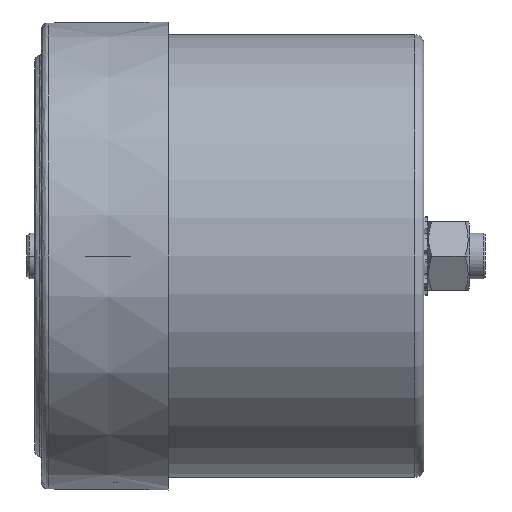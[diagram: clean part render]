
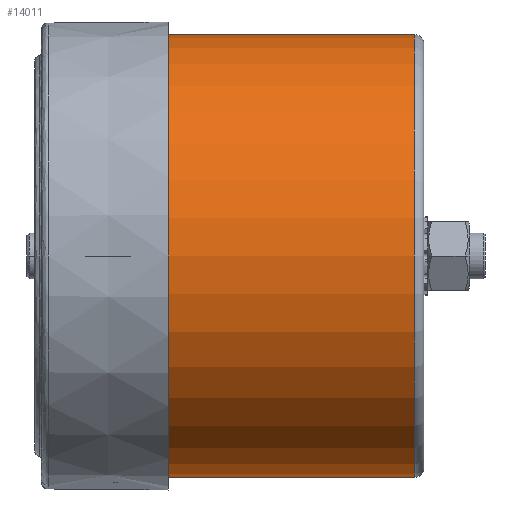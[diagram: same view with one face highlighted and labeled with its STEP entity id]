
A CAD part, left-side view. The second image highlights one B-rep face of the part: STEP entity #14011.
In plain terms, the highlighted cylindrical face has radius 58 mm (diameter 116 mm), a partial arc.
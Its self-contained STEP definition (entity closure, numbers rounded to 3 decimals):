
#365 = ORIENTED_EDGE ( 'NONE', *, *, #18739, .T. ) ;
#470 = CIRCLE ( 'NONE', #9964, 58. ) ;
#946 = VERTEX_POINT ( 'NONE', #13081 ) ;
#1001 = DIRECTION ( 'NONE',  ( 0., -1., 0. ) ) ;
#4763 = LINE ( 'NONE', #10227, #10890 ) ;
#5575 = CARTESIAN_POINT ( 'NONE',  ( 0., -97.4, 0. ) ) ;
#5920 = ORIENTED_EDGE ( 'NONE', *, *, #15338, .T. ) ;
#6235 = CARTESIAN_POINT ( 'NONE',  ( 0., -94.9, 0. ) ) ;
#6425 = VECTOR ( 'NONE', #11463, 1000. ) ;
#6471 = CARTESIAN_POINT ( 'NONE',  ( 0., -94.9, -58. ) ) ;
#6782 = DIRECTION ( 'NONE',  ( 0., 0., -1. ) ) ;
#7128 = DIRECTION ( 'NONE',  ( 0., -1., 0. ) ) ;
#7414 = EDGE_LOOP ( 'NONE', ( #16223, #5920, #365, #13674 ) ) ;
#8417 = EDGE_CURVE ( 'NONE', #14085, #946, #4763, .T. ) ;
#8772 = CARTESIAN_POINT ( 'NONE',  ( 0., -0.6, 0. ) ) ;
#9964 = AXIS2_PLACEMENT_3D ( 'NONE', #8772, #1001, #18129 ) ;
#10227 = CARTESIAN_POINT ( 'NONE',  ( 0., -97.4, 58. ) ) ;
#10890 = VECTOR ( 'NONE', #17169, 1000. ) ;
#11463 = DIRECTION ( 'NONE',  ( 0., -1., 0. ) ) ;
#11505 = CIRCLE ( 'NONE', #16309, 58. ) ;
#13047 = CARTESIAN_POINT ( 'NONE',  ( 0., -97.4, -58. ) ) ;
#13081 = CARTESIAN_POINT ( 'NONE',  ( 0., -94.9, 58. ) ) ;
#13299 = CYLINDRICAL_SURFACE ( 'NONE', #14366, 58. ) ;
#13674 = ORIENTED_EDGE ( 'NONE', *, *, #16202, .T. ) ;
#14011 = ADVANCED_FACE ( 'NONE', ( #18494 ), #13299, .T. ) ;
#14085 = VERTEX_POINT ( 'NONE', #15385 ) ;
#14366 = AXIS2_PLACEMENT_3D ( 'NONE', #5575, #7128, #6782 ) ;
#15082 = VERTEX_POINT ( 'NONE', #6471 ) ;
#15338 = EDGE_CURVE ( 'NONE', #14085, #16694, #470, .T. ) ;
#15385 = CARTESIAN_POINT ( 'NONE',  ( 0., -0.6, 58. ) ) ;
#16202 = EDGE_CURVE ( 'NONE', #15082, #946, #11505, .T. ) ;
#16223 = ORIENTED_EDGE ( 'NONE', *, *, #8417, .F. ) ;
#16309 = AXIS2_PLACEMENT_3D ( 'NONE', #6235, #18897, #18777 ) ;
#16694 = VERTEX_POINT ( 'NONE', #20143 ) ;
#17169 = DIRECTION ( 'NONE',  ( 0., -1., 0. ) ) ;
#18129 = DIRECTION ( 'NONE',  ( 0., 0., -1. ) ) ;
#18288 = LINE ( 'NONE', #13047, #6425 ) ;
#18494 = FACE_OUTER_BOUND ( 'NONE', #7414, .T. ) ;
#18739 = EDGE_CURVE ( 'NONE', #16694, #15082, #18288, .T. ) ;
#18777 = DIRECTION ( 'NONE',  ( 0., 0., -1. ) ) ;
#18897 = DIRECTION ( 'NONE',  ( 0., 1., 0. ) ) ;
#20143 = CARTESIAN_POINT ( 'NONE',  ( 0., -0.6, -58. ) ) ;
